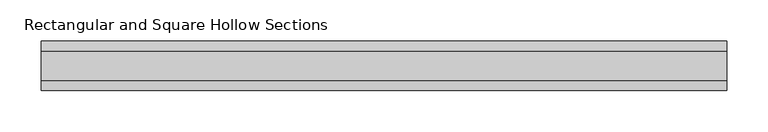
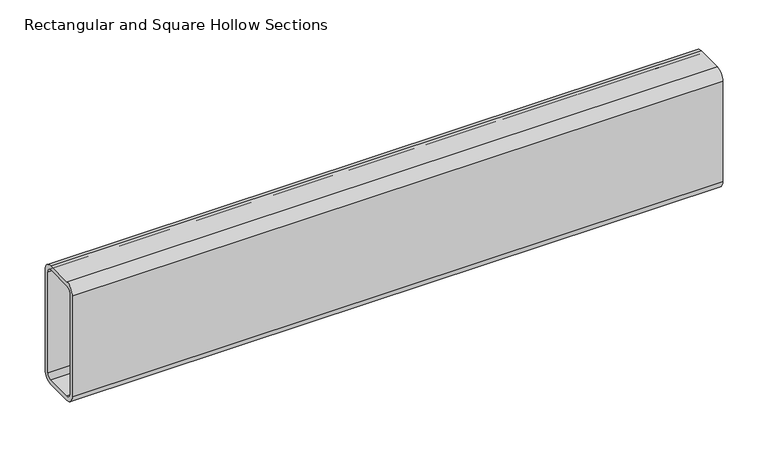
"""IFC4 building model written with IfcOpenShell, lengths in millimetres: beam geometry, Rectangular and Square Hollow Sections : TREC160x60x6."""

from ifc_helpers import new_model, si_unit, point, frame, frame_2d, origin, place, context, project, spatial, polyline, circle_curve, trimmed, segment, composite_curve, outline, extrude, source, transform, mapped, element, save


def rectangular_and_square_hollow_sections_4e81a107(model_context):
    return source(origin(), model_context, "Body", "SweptSolid", [
        extrude(outline(composite_curve([segment(polyline([(30.0, 68.0), (30.0, -68.0)]), True, "CONTINUOUS"), segment(trimmed(circle_curve(frame_2d((18.0, -68.0)), 12.0), [point((30.0, -68.0))], [point((18.0, -80.0))], False, "CARTESIAN"), True, "CONTINUOUS"), segment(polyline([(18.0, -80.0), (-18.0, -80.0)]), True, "CONTINUOUS"), segment(trimmed(circle_curve(frame_2d((-18.0, -68.0)), 12.0), [point((-18.0, -80.0))], [point((-30.0, -68.0))], False, "CARTESIAN"), True, "CONTINUOUS"), segment(polyline([(-30.0, -68.0), (-30.0, 68.0)]), True, "CONTINUOUS"), segment(trimmed(circle_curve(frame_2d((-18.0, 68.0)), 12.0), [point((-30.0, 68.0))], [point((-18.0, 80.0))], False, "CARTESIAN"), True, "CONTINUOUS"), segment(polyline([(-18.0, 80.0), (18.0, 80.0)]), True, "CONTINUOUS"), segment(trimmed(circle_curve(frame_2d((18.0, 68.0)), 12.0), [point((18.0, 80.0))], [point((30.0, 68.0))], False, "CARTESIAN"), True, "CONTINUOUS")], self_intersect=False), holes=[composite_curve([segment(trimmed(circle_curve(frame_2d((-18.0, 68.0)), 6.0), [point((-18.0, 74.0))], [point((-24.0, 68.0))], True, "CARTESIAN"), True, "CONTINUOUS"), segment(polyline([(-24.0, 68.0), (-24.0, -68.0)]), True, "CONTINUOUS"), segment(trimmed(circle_curve(frame_2d((-18.0, -68.0)), 6.0), [point((-24.0, -68.0))], [point((-18.0, -74.0))], True, "CARTESIAN"), True, "CONTINUOUS"), segment(polyline([(-18.0, -74.0), (18.0, -74.0)]), True, "CONTINUOUS"), segment(trimmed(circle_curve(frame_2d((18.0, -68.0)), 6.0), [point((18.0, -74.0))], [point((24.0, -68.0))], True, "CARTESIAN"), True, "CONTINUOUS"), segment(polyline([(24.0, -68.0), (24.0, 68.0)]), True, "CONTINUOUS"), segment(trimmed(circle_curve(frame_2d((18.0, 68.0)), 6.0), [point((24.0, 68.0))], [point((18.0, 74.0))], True, "CARTESIAN"), True, "CONTINUOUS"), segment(polyline([(18.0, 74.0), (-18.0, 74.0)]), True, "CONTINUOUS")], self_intersect=False)]), frame((-422.5, 0.0, 0.0), z_axis=(1.0, 0.0, 0.0), x_axis=(0.0, 1.0, 0.0)), (0.0, 0.0, 1.0), 830.0),
    ])


if __name__ == "__main__":
    model = new_model("IFC4")
    model_context = context("Model", 3, world=origin())
    ifc_project = project(units=[si_unit("LENGTHUNIT", "METRE", prefix="MILLI")], contexts=[model_context])
    site = spatial("IfcSite", under=ifc_project)
    building = spatial("IfcBuilding", under=site)
    placement = place(None, origin())
    rectangular_and_square_hollow_sections_shape = rectangular_and_square_hollow_sections_4e81a107(model_context)
    element("IfcBeam", 1, ObjectType="Rectangular and Square Hollow Sections : TREC160x60x6", at=placement, inside=building, context=model_context, shape_type="MappedRepresentation", body=[
        mapped(rectangular_and_square_hollow_sections_shape, transform((0.0, 0.0, 0.0), x_axis=(1.0, 0.0, 0.0), y_axis=(0.0, 1.0, 0.0), z_axis=(0.0, 0.0, 1.0))),
    ])
    save(model, "model.ifc")
